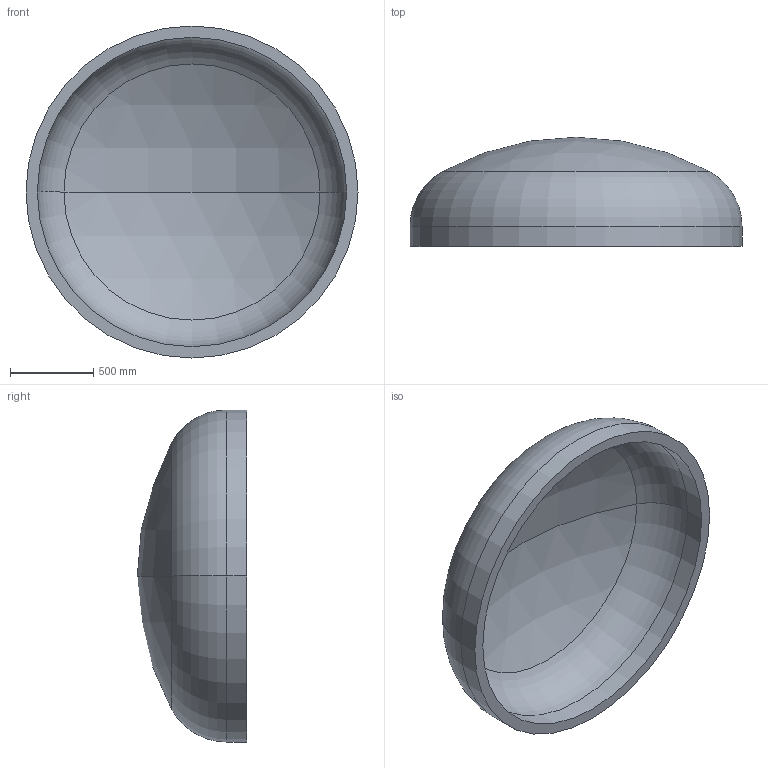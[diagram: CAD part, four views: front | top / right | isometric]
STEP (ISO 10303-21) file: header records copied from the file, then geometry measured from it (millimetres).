
FILE_DESCRIPTION (( 'STEP AP203' ), '1' );
FILE_NAME ('DIN 28013 Korbbogenform_-_Boden DIN 28013 - 2000 x 120 - I - s=68.step', '2016-07-01T14:01:32', ( '' ), ( '' ), 'SwSTEP 2.0', 'SolidWorks 2013', '' );
FILE_SCHEMA (( 'CONFIG_CONTROL_DESIGN' ));
Length unit declared in the file: millimetre
Products named in the file (1): DIN 28013 Korbbogenform_-_Boden DIN 28013 - 2000 x 120 - I - s=68
Bounding box: 2000 x 657.86 x 2000 mm (x, y, z)
Volume: 332957138 mm3; surface area: 10215268.5 mm2
Topology: 1 solids, 1 shells, 13 faces, 24 edges, 14 vertices
Faces by surface type: torus 4, cylinder 4, sphere 4, plane 1
Entity records: 407 total; most frequent: DIRECTION 72, CARTESIAN_POINT 52, ORIENTED_EDGE 48, AXIS2_PLACEMENT_3D 34, EDGE_CURVE 24, CIRCLE 20, EDGE_LOOP 14, VERTEX_POINT 14
